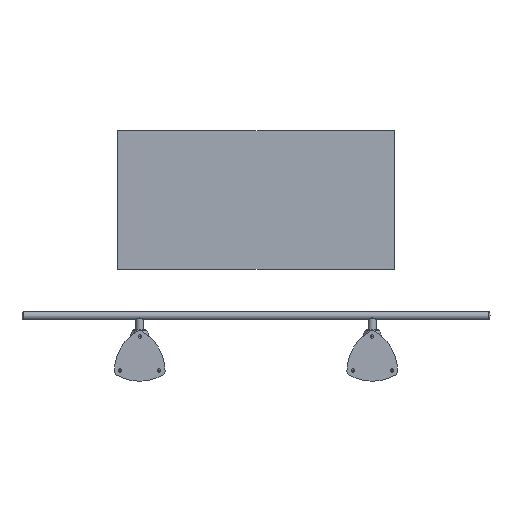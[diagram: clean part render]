
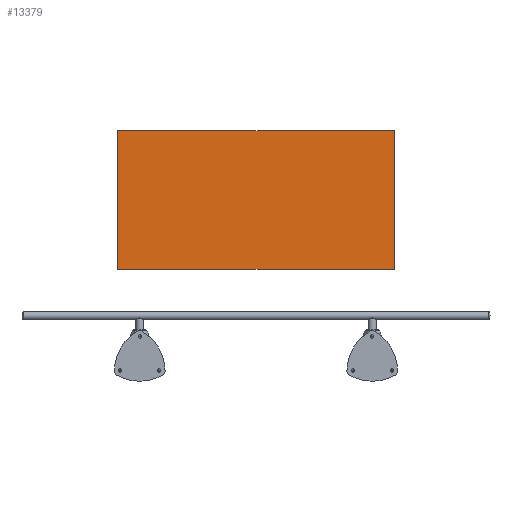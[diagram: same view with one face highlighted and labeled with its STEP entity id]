
A CAD part, front view. The second image highlights one B-rep face of the part: STEP entity #13379.
In plain terms, the highlighted planar face has unit normal (0, -1, 0).
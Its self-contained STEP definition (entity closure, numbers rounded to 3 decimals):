
#4793 = ORIENTED_EDGE ( 'NONE', *, *, #155991, .F. ) ;
#10597 = CARTESIAN_POINT ( 'NONE',  ( 0., -10., 684.25 ) ) ;
#13379 = ADVANCED_FACE ( 'NONE', ( #24054 ), #78659, .F. ) ;
#14154 = VERTEX_POINT ( 'NONE', #122063 ) ;
#15640 = DIRECTION ( 'NONE',  ( 0., 0., -1. ) ) ;
#20216 = DIRECTION ( 'NONE',  ( -1., 0., 0. ) ) ;
#24054 = FACE_OUTER_BOUND ( 'NONE', #65227, .T. ) ;
#30046 = LINE ( 'NONE', #30924, #129680 ) ;
#30924 = CARTESIAN_POINT ( 'NONE',  ( -595., -10., 684.25 ) ) ;
#36616 = LINE ( 'NONE', #166772, #143955 ) ;
#48251 = VERTEX_POINT ( 'NONE', #143044 ) ;
#50076 = DIRECTION ( 'NONE',  ( 1., 0., 0. ) ) ;
#51809 = DIRECTION ( 'NONE',  ( 1., 0., 0. ) ) ;
#52756 = VECTOR ( 'NONE', #20216, 1000. ) ;
#55026 = ORIENTED_EDGE ( 'NONE', *, *, #148198, .F. ) ;
#58374 = VERTEX_POINT ( 'NONE', #160048 ) ;
#65227 = EDGE_LOOP ( 'NONE', ( #4793, #99579, #55026, #103929 ) ) ;
#66639 = EDGE_CURVE ( 'NONE', #48251, #14154, #83710, .T. ) ;
#70469 = CARTESIAN_POINT ( 'NONE',  ( -595., -10., 386.75 ) ) ;
#78659 = PLANE ( 'NONE',  #88295 ) ;
#79761 = VERTEX_POINT ( 'NONE', #70469 ) ;
#83710 = LINE ( 'NONE', #138288, #161595 ) ;
#86101 = EDGE_CURVE ( 'NONE', #79761, #58374, #30046, .T. ) ;
#88295 = AXIS2_PLACEMENT_3D ( 'NONE', #10597, #174412, #51809 ) ;
#99579 = ORIENTED_EDGE ( 'NONE', *, *, #66639, .F. ) ;
#103929 = ORIENTED_EDGE ( 'NONE', *, *, #86101, .F. ) ;
#122063 = CARTESIAN_POINT ( 'NONE',  ( 595., -10., 386.75 ) ) ;
#129680 = VECTOR ( 'NONE', #140993, 1000. ) ;
#138288 = CARTESIAN_POINT ( 'NONE',  ( 595., -10., 684.25 ) ) ;
#140993 = DIRECTION ( 'NONE',  ( 0., 0., 1. ) ) ;
#142845 = CARTESIAN_POINT ( 'NONE',  ( 0., -10., 386.75 ) ) ;
#143044 = CARTESIAN_POINT ( 'NONE',  ( 595., -10., 981.75 ) ) ;
#143955 = VECTOR ( 'NONE', #50076, 1000. ) ;
#148198 = EDGE_CURVE ( 'NONE', #58374, #48251, #36616, .T. ) ;
#154564 = LINE ( 'NONE', #142845, #52756 ) ;
#155991 = EDGE_CURVE ( 'NONE', #14154, #79761, #154564, .T. ) ;
#160048 = CARTESIAN_POINT ( 'NONE',  ( -595., -10., 981.75 ) ) ;
#161595 = VECTOR ( 'NONE', #15640, 1000. ) ;
#166772 = CARTESIAN_POINT ( 'NONE',  ( 0., -10., 981.75 ) ) ;
#174412 = DIRECTION ( 'NONE',  ( 0., 1., 0. ) ) ;
